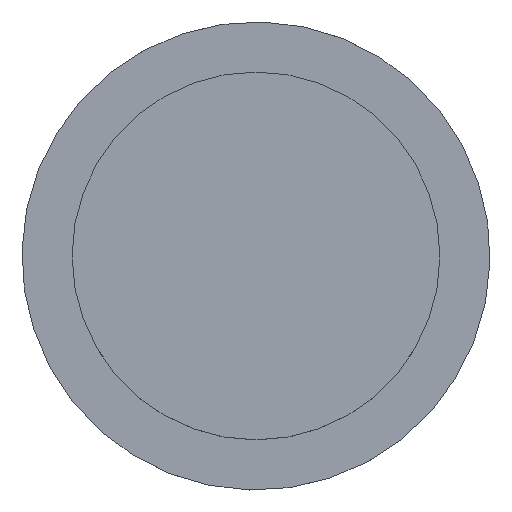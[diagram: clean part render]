
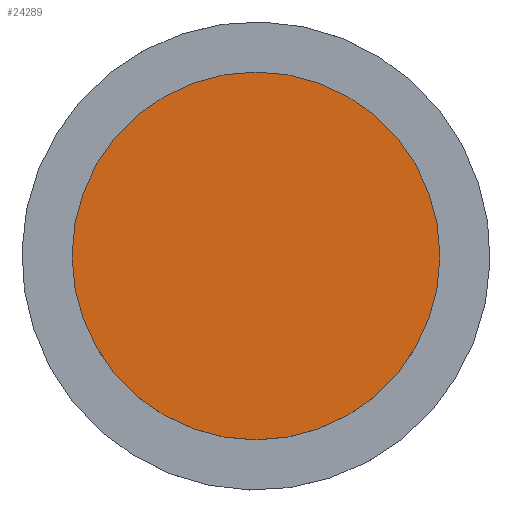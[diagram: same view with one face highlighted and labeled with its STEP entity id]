
A CAD part, top view. The second image highlights one B-rep face of the part: STEP entity #24289.
In plain terms, the highlighted planar face has unit normal (0, 0, 1).
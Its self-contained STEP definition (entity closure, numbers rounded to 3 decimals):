
#189=PLANE('',#25642);
#1179=FACE_OUTER_BOUND('',#2493,.T.);
#2493=EDGE_LOOP('',(#16383));
#8701=CIRCLE('',#25643,55.);
#10016=VERTEX_POINT('',#35906);
#12558=EDGE_CURVE('',#10016,#10016,#8701,.T.);
#16383=ORIENTED_EDGE('',*,*,#12558,.T.);
#24289=ADVANCED_FACE('',(#1179),#189,.T.);
#25642=AXIS2_PLACEMENT_3D('',#35905,#28257,#28258);
#25643=AXIS2_PLACEMENT_3D('',#35907,#28259,#28260);
#28257=DIRECTION('center_axis',(0.,0.,
1.));
#28258=DIRECTION('ref_axis',(0.,-1.,0.));
#28259=DIRECTION('center_axis',(0.,0.,
1.));
#28260=DIRECTION('ref_axis',(0.,1.,0.));
#35905=CARTESIAN_POINT('Origin',(-15.769,0.,
730.54));
#35906=CARTESIAN_POINT('',(0.,-55.,730.54));
#35907=CARTESIAN_POINT('Origin',(0.,0.,
730.54));
